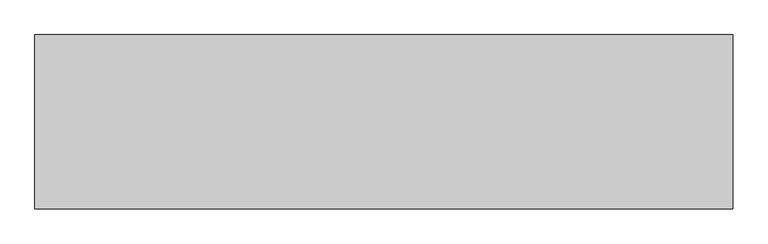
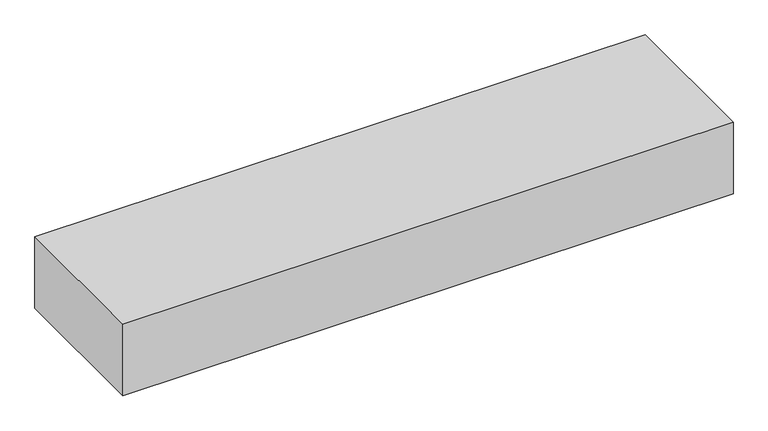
"""IFC4 building model written with IfcOpenShell, lengths in millimetres: proxy geometry, 基础 : 基础."""

from ifc_helpers import new_model, si_unit, frame, origin, place, context, project, spatial, polyline, outline, extrude, source, transform, mapped, element, save


def generic_models_cb15ba2c(model_context):
    return source(origin(), model_context, "Body", "SweptSolid", [
        extrude(outline(polyline([(-2894.8451576, -2415.8381006), (-2894.8451576, -3415.8381006), (-6894.8451576, -3415.8381006), (-6894.8451576, -2415.8381006), (-2894.8451576, -2415.8381006)])), frame((0.0, 0.0, -4200.0), z_axis=(0.0, 0.0, 1.0), x_axis=(1.0, 0.0, 0.0)), (0.0, 0.0, 1.0), 494.0),
    ])


if __name__ == "__main__":
    model = new_model("IFC4")
    model_context = context("Model", 3, world=origin())
    ifc_project = project(units=[si_unit("LENGTHUNIT", "METRE", prefix="MILLI")], contexts=[model_context])
    site = spatial("IfcSite", under=ifc_project)
    building = spatial("IfcBuilding", under=site)
    placement = place(None, origin())
    generic_models_shape = generic_models_cb15ba2c(model_context)
    element("IfcBuildingElementProxy", 1, Name="基础 : 基础", ObjectType="基础 : 基础", at=placement, inside=building, context=model_context, shape_type="MappedRepresentation", body=[
        mapped(generic_models_shape, transform((0.0, 0.0, 0.0), x_axis=(1.0, 0.0, 0.0), y_axis=(0.0, 1.0, 0.0), z_axis=(0.0, 0.0, 1.0))),
    ])
    save(model, "model.ifc")
